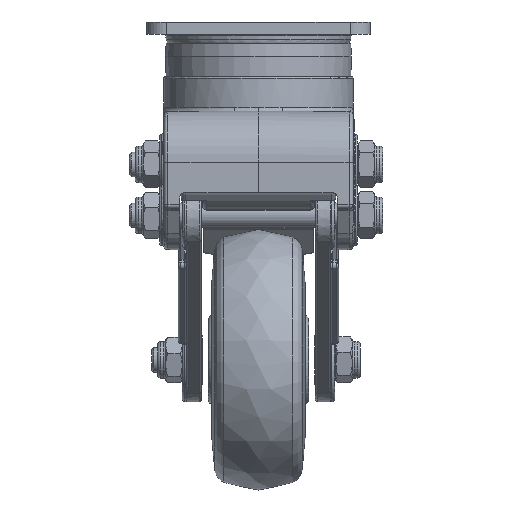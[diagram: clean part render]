
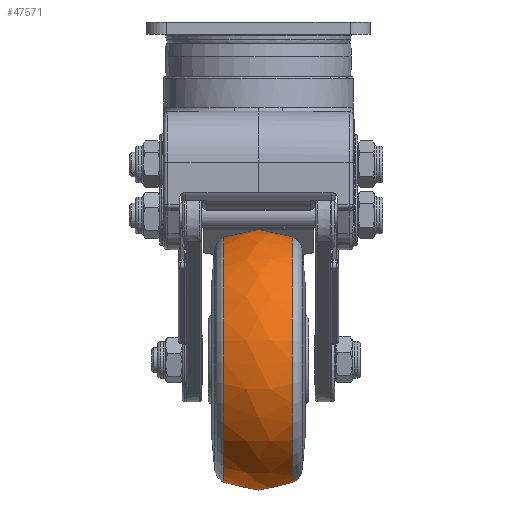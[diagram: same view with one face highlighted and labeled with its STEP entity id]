
A CAD part, left-side view. The second image highlights one B-rep face of the part: STEP entity #47571.
In plain terms, the highlighted free-form (B-spline) face has degree [2, 2] with [3, 9] control points.
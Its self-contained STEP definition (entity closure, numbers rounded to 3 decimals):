
#18=(
BOUNDED_SURFACE()
B_SPLINE_SURFACE(2,2,((#83127,#83128,#83129,#83130,#83131,#83132,#83133,
#83134,#83135),(#83136,#83137,#83138,#83139,#83140,#83141,#83142,#83143,
#83144),(#83145,#83146,#83147,#83148,#83149,#83150,#83151,#83152,#83153)),
 .UNSPECIFIED.,.F.,.T.,.F.)
B_SPLINE_SURFACE_WITH_KNOTS((3,3),(3,2,2,2,3),(-0.438,0.438),
(-3.142,-1.571,0.,1.571,3.142),
 .UNSPECIFIED.)
GEOMETRIC_REPRESENTATION_ITEM()
RATIONAL_B_SPLINE_SURFACE(((1.,0.707,1.,0.707,1.,
0.707,1.,0.707,1.),(0.906,0.64,
0.906,0.64,0.906,0.64,
0.906,0.64,0.906),(1.,0.707,
1.,0.707,1.,0.707,1.,0.707,1.)))
REPRESENTATION_ITEM('')
SURFACE()
);
#5210=CIRCLE('',#51368,30.112);
#5211=CIRCLE('',#51369,30.112);
#5222=CIRCLE('',#51386,30.112);
#5223=CIRCLE('',#51387,30.112);
#5225=CIRCLE('',#51389,20.);
#7275=FACE_OUTER_BOUND('',#10029,.T.);
#10029=EDGE_LOOP('',(#37155,#37156,#37157,#37158,#37159,#37160));
#20102=VERTEX_POINT('',#83088);
#20103=VERTEX_POINT('',#83090);
#20114=VERTEX_POINT('',#83122);
#20115=VERTEX_POINT('',#83123);
#26046=EDGE_CURVE('',#20102,#20103,#5210,.T.);
#26047=EDGE_CURVE('',#20103,#20102,#5211,.T.);
#26061=EDGE_CURVE('',#20114,#20115,#5222,.T.);
#26062=EDGE_CURVE('',#20115,#20114,#5223,.T.);
#26064=EDGE_CURVE('',#20102,#20115,#5225,.T.);
#37155=ORIENTED_EDGE('',*,*,#26047,.F.);
#37156=ORIENTED_EDGE('',*,*,#26046,.F.);
#37157=ORIENTED_EDGE('',*,*,#26064,.T.);
#37158=ORIENTED_EDGE('',*,*,#26062,.T.);
#37159=ORIENTED_EDGE('',*,*,#26061,.T.);
#37160=ORIENTED_EDGE('',*,*,#26064,.F.);
#47571=ADVANCED_FACE('',(#7275),#18,.F.);
#51368=AXIS2_PLACEMENT_3D('',#83091,#59846,#59847);
#51369=AXIS2_PLACEMENT_3D('',#83092,#59848,#59849);
#51386=AXIS2_PLACEMENT_3D('',#83124,#59885,#59886);
#51387=AXIS2_PLACEMENT_3D('',#83125,#59887,#59888);
#51389=AXIS2_PLACEMENT_3D('',#83154,#59891,#59892);
#59846=DIRECTION('center_axis',(0.,-1.,0.));
#59847=DIRECTION('ref_axis',(-0.325,0.,-0.946));
#59848=DIRECTION('center_axis',(0.,-1.,0.));
#59849=DIRECTION('ref_axis',(-0.325,0.,-0.946));
#59885=DIRECTION('center_axis',(0.,-1.,0.));
#59886=DIRECTION('ref_axis',(-0.325,0.,-0.946));
#59887=DIRECTION('center_axis',(0.,-1.,0.));
#59888=DIRECTION('ref_axis',(-0.325,0.,-0.946));
#59891=DIRECTION('center_axis',(-0.946,0.,
0.325));
#59892=DIRECTION('ref_axis',(0.325,0.,0.946));
#83088=CARTESIAN_POINT('',(18.28,-13.461,-40.184));
#83090=CARTESIAN_POINT('',(-1.284,-13.461,-97.142));
#83091=CARTESIAN_POINT('Origin',(8.498,-13.461,-68.663));
#83092=CARTESIAN_POINT('Origin',(8.498,-13.461,-68.663));
#83122=CARTESIAN_POINT('',(-1.284,3.504,-97.142));
#83123=CARTESIAN_POINT('',(18.28,3.504,-40.184));
#83124=CARTESIAN_POINT('Origin',(8.498,3.504,-68.663));
#83125=CARTESIAN_POINT('Origin',(8.498,3.504,-68.663));
#83127=CARTESIAN_POINT('Ctrl Pts',(18.28,3.504,-40.184));
#83128=CARTESIAN_POINT('Ctrl Pts',(-10.199,3.504,-30.402));
#83129=CARTESIAN_POINT('Ctrl Pts',(-19.981,3.504,-58.881));
#83130=CARTESIAN_POINT('Ctrl Pts',(-29.763,3.504,-87.36));
#83131=CARTESIAN_POINT('Ctrl Pts',(-1.284,3.504,-97.142));
#83132=CARTESIAN_POINT('Ctrl Pts',(27.195,3.504,-106.924));
#83133=CARTESIAN_POINT('Ctrl Pts',(36.977,3.504,-78.445));
#83134=CARTESIAN_POINT('Ctrl Pts',(46.759,3.504,-49.966));
#83135=CARTESIAN_POINT('Ctrl Pts',(18.28,3.504,-40.184));
#83136=CARTESIAN_POINT('Ctrl Pts',(19.571,-4.979,-36.427));
#83137=CARTESIAN_POINT('Ctrl Pts',(-12.665,-4.979,-25.355));
#83138=CARTESIAN_POINT('Ctrl Pts',(-23.738,-4.979,-57.59));
#83139=CARTESIAN_POINT('Ctrl Pts',(-34.811,-4.979,-89.826));
#83140=CARTESIAN_POINT('Ctrl Pts',(-2.575,-4.979,
-100.899));
#83141=CARTESIAN_POINT('Ctrl Pts',(29.661,-4.979,-111.972));
#83142=CARTESIAN_POINT('Ctrl Pts',(40.734,-4.979,-79.736));
#83143=CARTESIAN_POINT('Ctrl Pts',(51.807,-4.979,-47.5));
#83144=CARTESIAN_POINT('Ctrl Pts',(19.571,-4.979,-36.427));
#83145=CARTESIAN_POINT('Ctrl Pts',(18.28,-13.461,-40.184));
#83146=CARTESIAN_POINT('Ctrl Pts',(-10.199,-13.461,
-30.402));
#83147=CARTESIAN_POINT('Ctrl Pts',(-19.981,-13.461,-58.881));
#83148=CARTESIAN_POINT('Ctrl Pts',(-29.763,-13.461,
-87.36));
#83149=CARTESIAN_POINT('Ctrl Pts',(-1.284,-13.461,
-97.142));
#83150=CARTESIAN_POINT('Ctrl Pts',(27.195,-13.461,-106.924));
#83151=CARTESIAN_POINT('Ctrl Pts',(36.977,-13.461,-78.445));
#83152=CARTESIAN_POINT('Ctrl Pts',(46.759,-13.461,-49.966));
#83153=CARTESIAN_POINT('Ctrl Pts',(18.28,-13.461,-40.184));
#83154=CARTESIAN_POINT('Origin',(12.396,-4.979,-57.314));
